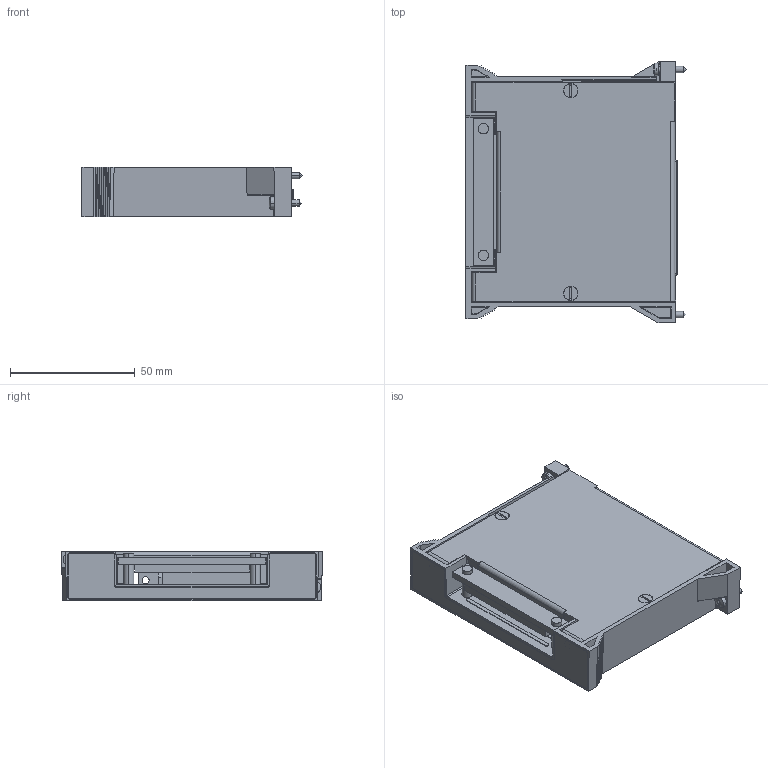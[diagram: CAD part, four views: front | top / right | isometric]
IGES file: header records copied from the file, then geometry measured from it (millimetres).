
Start section:  PTC IGES file: cu_pxi_tb_pl.igs
Global section: file name: cu_pxi_tb_pl.igs; native system: Pro/ENGINEER by Parametric Technology Corporation; preprocessor: 2006300; author: chrisj; organization: Unknown; date: 20070912.163322; units: inch
Bounding box: 88.3 x 104.78 x 20.02 mm (x, y, z)
Surface area: 51522.3 mm2 (no closed solid volume)
Topology: 0 solids, 0 shells, 815 faces, 4076 edges, 4012 vertices
Faces by surface type: bspline 544, revolution 271
